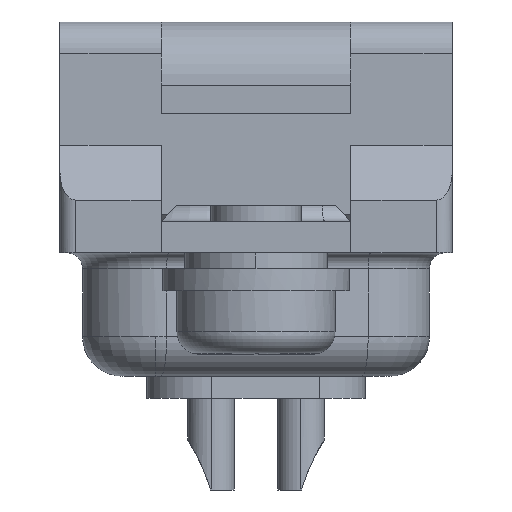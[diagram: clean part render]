
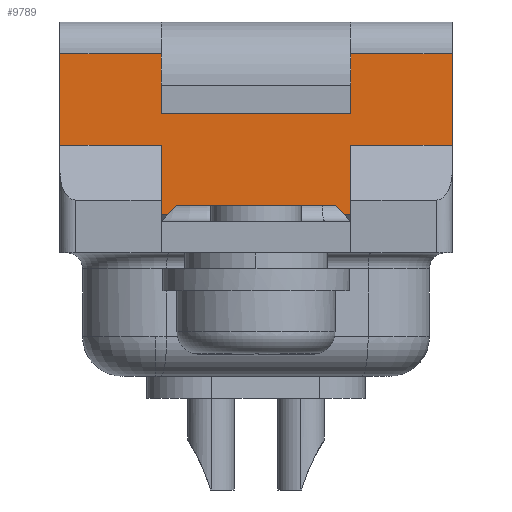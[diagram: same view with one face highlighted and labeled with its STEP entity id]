
A CAD part, left-side view. The second image highlights one B-rep face of the part: STEP entity #9789.
In plain terms, the highlighted planar face has unit normal (-1, 0, 0).
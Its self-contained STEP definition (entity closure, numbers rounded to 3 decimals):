
#50 = VERTEX_POINT ( 'NONE', #3055 ) ;
#53 = EDGE_CURVE ( 'NONE', #3185, #3780, #6190, .T. ) ;
#79 = VECTOR ( 'NONE', #12562, 1000. ) ;
#131 = CARTESIAN_POINT ( 'NONE',  ( -15.445, -3., 0.7 ) ) ;
#142 = VERTEX_POINT ( 'NONE', #5580 ) ;
#297 = DIRECTION ( 'NONE',  ( 0., 0., -1. ) ) ;
#311 = ORIENTED_EDGE ( 'NONE', *, *, #53, .T. ) ;
#373 = CARTESIAN_POINT ( 'NONE',  ( -15.445, 6.2, 0.7 ) ) ;
#402 = CARTESIAN_POINT ( 'NONE',  ( -15.445, 6.2, 6.8 ) ) ;
#403 = VERTEX_POINT ( 'NONE', #14595 ) ;
#463 = EDGE_CURVE ( 'NONE', #50, #3185, #9726, .T. ) ;
#524 = VECTOR ( 'NONE', #4918, 1000. ) ;
#582 = CARTESIAN_POINT ( 'NONE',  ( -15.445, 6.2, 5.8 ) ) ;
#753 = EDGE_CURVE ( 'NONE', #976, #403, #5006, .T. ) ;
#963 = DIRECTION ( 'NONE',  ( 0., 1., 0. ) ) ;
#976 = VERTEX_POINT ( 'NONE', #5542 ) ;
#1009 = AXIS2_PLACEMENT_3D ( 'NONE', #12002, #4764, #5979 ) ;
#1107 = CARTESIAN_POINT ( 'NONE',  ( -15.445, 3., 6.8 ) ) ;
#1198 = VECTOR ( 'NONE', #14042, 1000. ) ;
#1260 = VERTEX_POINT ( 'NONE', #9437 ) ;
#1302 = VECTOR ( 'NONE', #13889, 1000. ) ;
#1354 = EDGE_CURVE ( 'NONE', #7453, #1260, #9580, .T. ) ;
#1369 = EDGE_CURVE ( 'NONE', #3780, #142, #8264, .T. ) ;
#1820 = LINE ( 'NONE', #6950, #13601 ) ;
#1951 = CARTESIAN_POINT ( 'NONE',  ( -15.445, 0., 5.8 ) ) ;
#2083 = VERTEX_POINT ( 'NONE', #11583 ) ;
#2179 = EDGE_CURVE ( 'NONE', #142, #14307, #2185, .T. ) ;
#2185 = LINE ( 'NONE', #4909, #8831 ) ;
#2370 = DIRECTION ( 'NONE',  ( 0., 0., 1. ) ) ;
#2435 = EDGE_CURVE ( 'NONE', #10309, #976, #1820, .T. ) ;
#2604 = ORIENTED_EDGE ( 'NONE', *, *, #3233, .T. ) ;
#2692 = ORIENTED_EDGE ( 'NONE', *, *, #9771, .F. ) ;
#2869 = ORIENTED_EDGE ( 'NONE', *, *, #2179, .T. ) ;
#2962 = VERTEX_POINT ( 'NONE', #14721 ) ;
#3055 = CARTESIAN_POINT ( 'NONE',  ( -15.445, -2.8, 0.7 ) ) ;
#3185 = VERTEX_POINT ( 'NONE', #131 ) ;
#3233 = EDGE_CURVE ( 'NONE', #2083, #6299, #10485, .T. ) ;
#3466 = VECTOR ( 'NONE', #12084, 1000. ) ;
#3692 = LINE ( 'NONE', #6484, #12971 ) ;
#3780 = VERTEX_POINT ( 'NONE', #8767 ) ;
#3948 = ORIENTED_EDGE ( 'NONE', *, *, #463, .T. ) ;
#4052 = DIRECTION ( 'NONE',  ( 0., 0., 1. ) ) ;
#4391 = DIRECTION ( 'NONE',  ( 0., 1., 0. ) ) ;
#4553 = CARTESIAN_POINT ( 'NONE',  ( -15.445, 3., 0.5 ) ) ;
#4760 = EDGE_CURVE ( 'NONE', #9998, #2962, #12564, .T. ) ;
#4764 = DIRECTION ( 'NONE',  ( -1., 0., 0. ) ) ;
#4857 = DIRECTION ( 'NONE',  ( 0., 0.707, 0.707 ) ) ;
#4909 = CARTESIAN_POINT ( 'NONE',  ( -15.445, -6.2, 6.8 ) ) ;
#4918 = DIRECTION ( 'NONE',  ( 0., -1., 0. ) ) ;
#5006 = LINE ( 'NONE', #4553, #11252 ) ;
#5156 = VECTOR ( 'NONE', #10025, 1000. ) ;
#5185 = VECTOR ( 'NONE', #7195, 1000. ) ;
#5233 = EDGE_LOOP ( 'NONE', ( #2869, #12773, #8308, #14550, #2692, #2604, #6085, #9006, #7007, #8334, #12949, #9825, #12168, #3948, #311, #15364 ) ) ;
#5339 = CARTESIAN_POINT ( 'NONE',  ( -15.445, 3., 0.7 ) ) ;
#5396 = CARTESIAN_POINT ( 'NONE',  ( -15.445, -6.2, 5.8 ) ) ;
#5542 = CARTESIAN_POINT ( 'NONE',  ( -15.445, 2.5, 1. ) ) ;
#5580 = CARTESIAN_POINT ( 'NONE',  ( -15.445, -6.2, 2.9 ) ) ;
#5923 = CARTESIAN_POINT ( 'NONE',  ( -15.445, 3., 3.9 ) ) ;
#5936 = LINE ( 'NONE', #402, #10262 ) ;
#5979 = DIRECTION ( 'NONE',  ( 0., -1., 0. ) ) ;
#6085 = ORIENTED_EDGE ( 'NONE', *, *, #9037, .T. ) ;
#6190 = LINE ( 'NONE', #8872, #11461 ) ;
#6299 = VERTEX_POINT ( 'NONE', #582 ) ;
#6309 = CARTESIAN_POINT ( 'NONE',  ( -15.445, 3., 2.9 ) ) ;
#6403 = VECTOR ( 'NONE', #7196, 1000. ) ;
#6484 = CARTESIAN_POINT ( 'NONE',  ( -15.445, -3., 6.8 ) ) ;
#6598 = LINE ( 'NONE', #373, #1302 ) ;
#6905 = VECTOR ( 'NONE', #4391, 1000. ) ;
#6950 = CARTESIAN_POINT ( 'NONE',  ( -15.445, 2.5, 1. ) ) ;
#7000 = VECTOR ( 'NONE', #4857, 1000. ) ;
#7007 = ORIENTED_EDGE ( 'NONE', *, *, #4760, .F. ) ;
#7068 = LINE ( 'NONE', #1951, #1198 ) ;
#7196 = DIRECTION ( 'NONE',  ( 0., -1., 0. ) ) ;
#7195 = DIRECTION ( 'NONE',  ( 0., 0., -1. ) ) ;
#7453 = VERTEX_POINT ( 'NONE', #5923 ) ;
#7998 = LINE ( 'NONE', #1107, #5185 ) ;
#8264 = LINE ( 'NONE', #12060, #524 ) ;
#8304 = EDGE_CURVE ( 'NONE', #9998, #403, #6598, .T. ) ;
#8308 = ORIENTED_EDGE ( 'NONE', *, *, #15100, .F. ) ;
#8334 = ORIENTED_EDGE ( 'NONE', *, *, #8304, .T. ) ;
#8427 = EDGE_CURVE ( 'NONE', #14307, #10174, #7068, .T. ) ;
#8767 = CARTESIAN_POINT ( 'NONE',  ( -15.445, -3., 2.9 ) ) ;
#8831 = VECTOR ( 'NONE', #2370, 1000. ) ;
#8872 = CARTESIAN_POINT ( 'NONE',  ( -15.445, -3., 2.9 ) ) ;
#9006 = ORIENTED_EDGE ( 'NONE', *, *, #10817, .F. ) ;
#9037 = EDGE_CURVE ( 'NONE', #6299, #10734, #5936, .T. ) ;
#9437 = CARTESIAN_POINT ( 'NONE',  ( -15.445, -3., 3.9 ) ) ;
#9580 = LINE ( 'NONE', #12167, #6403 ) ;
#9707 = PLANE ( 'NONE',  #1009 ) ;
#9726 = LINE ( 'NONE', #12511, #79 ) ;
#9771 = EDGE_CURVE ( 'NONE', #2083, #7453, #7998, .T. ) ;
#9789 = ADVANCED_FACE ( 'NONE', ( #10265 ), #9707, .T. ) ;
#9825 = ORIENTED_EDGE ( 'NONE', *, *, #2435, .F. ) ;
#9998 = VERTEX_POINT ( 'NONE', #5339 ) ;
#10025 = DIRECTION ( 'NONE',  ( 0., 1., 0. ) ) ;
#10174 = VERTEX_POINT ( 'NONE', #15144 ) ;
#10207 = LINE ( 'NONE', #14446, #7000 ) ;
#10262 = VECTOR ( 'NONE', #297, 1000. ) ;
#10265 = FACE_OUTER_BOUND ( 'NONE', #5233, .T. ) ;
#10309 = VERTEX_POINT ( 'NONE', #11715 ) ;
#10485 = LINE ( 'NONE', #13914, #6905 ) ;
#10734 = VERTEX_POINT ( 'NONE', #14457 ) ;
#10813 = LINE ( 'NONE', #6309, #5156 ) ;
#10817 = EDGE_CURVE ( 'NONE', #2962, #10734, #10813, .T. ) ;
#11187 = DIRECTION ( 'NONE',  ( 0., 0., 1. ) ) ;
#11252 = VECTOR ( 'NONE', #11848, 1000. ) ;
#11461 = VECTOR ( 'NONE', #4052, 1000. ) ;
#11583 = CARTESIAN_POINT ( 'NONE',  ( -15.445, 3., 5.8 ) ) ;
#11715 = CARTESIAN_POINT ( 'NONE',  ( -15.445, -2.5, 1. ) ) ;
#11793 = EDGE_CURVE ( 'NONE', #50, #10309, #10207, .T. ) ;
#11848 = DIRECTION ( 'NONE',  ( 0., 0.707, -0.707 ) ) ;
#12002 = CARTESIAN_POINT ( 'NONE',  ( -15.445, 0., 1.612 ) ) ;
#12060 = CARTESIAN_POINT ( 'NONE',  ( -15.445, -3., 2.9 ) ) ;
#12084 = DIRECTION ( 'NONE',  ( 0., 0., 1. ) ) ;
#12167 = CARTESIAN_POINT ( 'NONE',  ( -15.445, 3., 3.9 ) ) ;
#12168 = ORIENTED_EDGE ( 'NONE', *, *, #11793, .F. ) ;
#12511 = CARTESIAN_POINT ( 'NONE',  ( -15.445, 6.2, 0.7 ) ) ;
#12562 = DIRECTION ( 'NONE',  ( 0., -1., 0. ) ) ;
#12564 = LINE ( 'NONE', #13446, #3466 ) ;
#12773 = ORIENTED_EDGE ( 'NONE', *, *, #8427, .T. ) ;
#12949 = ORIENTED_EDGE ( 'NONE', *, *, #753, .F. ) ;
#12971 = VECTOR ( 'NONE', #11187, 1000. ) ;
#13446 = CARTESIAN_POINT ( 'NONE',  ( -15.445, 3., 2.9 ) ) ;
#13601 = VECTOR ( 'NONE', #963, 1000. ) ;
#13889 = DIRECTION ( 'NONE',  ( 0., -1., 0. ) ) ;
#13914 = CARTESIAN_POINT ( 'NONE',  ( -15.445, 0., 5.8 ) ) ;
#14042 = DIRECTION ( 'NONE',  ( 0., 1., 0. ) ) ;
#14307 = VERTEX_POINT ( 'NONE', #5396 ) ;
#14446 = CARTESIAN_POINT ( 'NONE',  ( -15.445, -2.5, 1. ) ) ;
#14457 = CARTESIAN_POINT ( 'NONE',  ( -15.445, 6.2, 2.9 ) ) ;
#14550 = ORIENTED_EDGE ( 'NONE', *, *, #1354, .F. ) ;
#14595 = CARTESIAN_POINT ( 'NONE',  ( -15.445, 2.8, 0.7 ) ) ;
#14721 = CARTESIAN_POINT ( 'NONE',  ( -15.445, 3., 2.9 ) ) ;
#15100 = EDGE_CURVE ( 'NONE', #1260, #10174, #3692, .T. ) ;
#15144 = CARTESIAN_POINT ( 'NONE',  ( -15.445, -3., 5.8 ) ) ;
#15364 = ORIENTED_EDGE ( 'NONE', *, *, #1369, .T. ) ;
